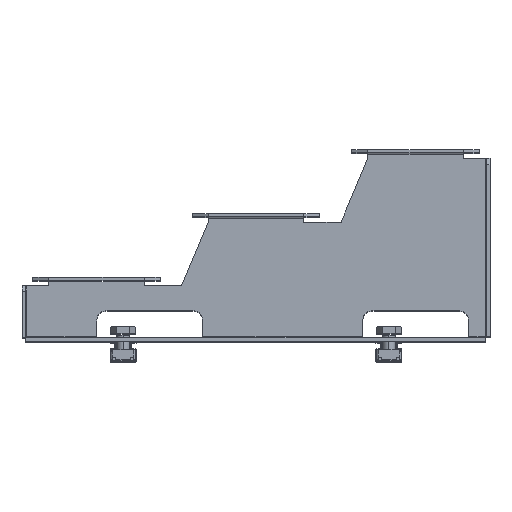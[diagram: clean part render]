
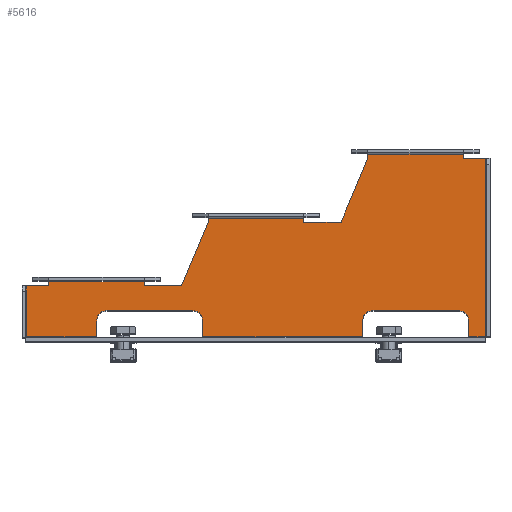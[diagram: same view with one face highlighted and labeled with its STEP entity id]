
A CAD part, top view. The second image highlights one B-rep face of the part: STEP entity #5616.
In plain terms, the highlighted planar face has unit normal (0, 0, 1).
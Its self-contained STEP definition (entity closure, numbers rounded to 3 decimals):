
#3716=CARTESIAN_POINT(' ',(-260.,2.1,1.5));
#3717=VERTEX_POINT(' ',#3716);
#3881=CARTESIAN_POINT(' ',(-260.,2.1,1.5));
#3886=DIRECTION(' ',(-1.,0.,0.));
#3891=VECTOR(' ',#3886,1.);
#3896=LINE('',#3881,#3891);
#3901=CARTESIAN_POINT(' ',(-292.9,2.1,1.5));
#3902=VERTEX_POINT(' ',#3901);
#3906=EDGE_CURVE(' ',#3717,#3902,#3896,.T.);
#4446=CARTESIAN_POINT(' ',(-260.,9.5,1.5));
#4447=VERTEX_POINT(' ',#4446);
#4461=CARTESIAN_POINT(' ',(-260.,9.5,1.5));
#4466=DIRECTION(' ',(0.,-1.,0.));
#4471=VECTOR(' ',#4466,1.);
#4476=LINE('',#4461,#4471);
#4481=EDGE_CURVE(' ',#4447,#3717,#4476,.T.);
#4506=DIRECTION(' ',(-0.,-0.,1.));
#4511=CARTESIAN_POINT(' ',(-77.1,2.1,1.5));
#4516=DIRECTION(' ',(0.,1.,0.));
#4521=AXIS2_PLACEMENT_3D(' ',#4511,#4506,#4516);
#4526=PLANE('NONE',#4521);
#4531=ORIENTED_EDGE(' ',*,*,#4481,.F.);
#4536=CARTESIAN_POINT(' ',(-255.,9.5,1.5));
#4541=DIRECTION(' ',(0.,-0.,-1.));
#4546=DIRECTION(' ',(-1.,0.,0.));
#4551=AXIS2_PLACEMENT_3D(' ',#4536,#4541,#4546);
#4556=CIRCLE('',#4551,5.);
#4561=CARTESIAN_POINT(' ',(-255.,14.5,1.5));
#4562=VERTEX_POINT(' ',#4561);
#4566=EDGE_CURVE(' ',#4447,#4562,#4556,.T.);
#4571=ORIENTED_EDGE(' ',*,*,#4566,.T.);
#4576=CARTESIAN_POINT(' ',(-215.,14.5,1.5));
#4581=DIRECTION(' ',(-1.,0.,0.));
#4586=VECTOR(' ',#4581,1.);
#4591=LINE('',#4576,#4586);
#4596=CARTESIAN_POINT(' ',(-215.,14.5,1.5));
#4597=VERTEX_POINT(' ',#4596);
#4601=EDGE_CURVE(' ',#4597,#4562,#4591,.T.);
#4606=ORIENTED_EDGE(' ',*,*,#4601,.F.);
#4611=CARTESIAN_POINT(' ',(-215.,9.5,1.5));
#4616=DIRECTION(' ',(-0.,-0.,-1.));
#4621=DIRECTION(' ',(0.,1.,0.));
#4626=AXIS2_PLACEMENT_3D(' ',#4611,#4616,#4621);
#4631=CIRCLE('',#4626,5.);
#4636=CARTESIAN_POINT(' ',(-210.,9.5,1.5));
#4637=VERTEX_POINT(' ',#4636);
#4641=EDGE_CURVE(' ',#4597,#4637,#4631,.T.);
#4646=ORIENTED_EDGE(' ',*,*,#4641,.T.);
#4651=CARTESIAN_POINT(' ',(-210.,2.1,1.5));
#4656=DIRECTION(' ',(0.,1.,0.));
#4661=VECTOR(' ',#4656,1.);
#4666=LINE('',#4651,#4661);
#4671=CARTESIAN_POINT(' ',(-210.,2.1,1.5));
#4672=VERTEX_POINT(' ',#4671);
#4676=EDGE_CURVE(' ',#4672,#4637,#4666,.T.);
#4681=ORIENTED_EDGE(' ',*,*,#4676,.F.);
#4686=CARTESIAN_POINT(' ',(-135.,2.1,1.5));
#4691=DIRECTION(' ',(-1.,0.,0.));
#4696=VECTOR(' ',#4691,1.);
#4701=LINE('',#4686,#4696);
#4706=CARTESIAN_POINT(' ',(-135.,2.1,1.5));
#4707=VERTEX_POINT(' ',#4706);
#4711=EDGE_CURVE(' ',#4707,#4672,#4701,.T.);
#4716=ORIENTED_EDGE(' ',*,*,#4711,.F.);
#4721=CARTESIAN_POINT(' ',(-135.,9.5,1.5));
#4726=DIRECTION(' ',(0.,-1.,0.));
#4731=VECTOR(' ',#4726,1.);
#4736=LINE('',#4721,#4731);
#4741=CARTESIAN_POINT(' ',(-135.,9.5,1.5));
#4742=VERTEX_POINT(' ',#4741);
#4746=EDGE_CURVE(' ',#4742,#4707,#4736,.T.);
#4751=ORIENTED_EDGE(' ',*,*,#4746,.F.);
#4756=CARTESIAN_POINT(' ',(-130.,9.5,1.5));
#4761=DIRECTION(' ',(0.,0.,-1.));
#4766=DIRECTION(' ',(-1.,0.,0.));
#4771=AXIS2_PLACEMENT_3D(' ',#4756,#4761,#4766);
#4776=CIRCLE('',#4771,5.);
#4781=CARTESIAN_POINT(' ',(-130.,14.5,1.5));
#4782=VERTEX_POINT(' ',#4781);
#4786=EDGE_CURVE(' ',#4742,#4782,#4776,.T.);
#4791=ORIENTED_EDGE(' ',*,*,#4786,.T.);
#4796=CARTESIAN_POINT(' ',(-90.,14.5,1.5));
#4801=DIRECTION(' ',(-1.,0.,0.));
#4806=VECTOR(' ',#4801,1.);
#4811=LINE('',#4796,#4806);
#4816=CARTESIAN_POINT(' ',(-90.,14.5,1.5));
#4817=VERTEX_POINT(' ',#4816);
#4821=EDGE_CURVE(' ',#4817,#4782,#4811,.T.);
#4826=ORIENTED_EDGE(' ',*,*,#4821,.F.);
#4831=CARTESIAN_POINT(' ',(-90.,9.5,1.5));
#4836=DIRECTION(' ',(0.,0.,-1.));
#4841=DIRECTION(' ',(0.,1.,0.));
#4846=AXIS2_PLACEMENT_3D(' ',#4831,#4836,#4841);
#4851=CIRCLE('',#4846,5.);
#4856=CARTESIAN_POINT(' ',(-85.,9.5,1.5));
#4857=VERTEX_POINT(' ',#4856);
#4861=EDGE_CURVE(' ',#4817,#4857,#4851,.T.);
#4866=ORIENTED_EDGE(' ',*,*,#4861,.T.);
#4871=CARTESIAN_POINT(' ',(-85.,2.1,1.5));
#4876=DIRECTION(' ',(0.,1.,0.));
#4881=VECTOR(' ',#4876,1.);
#4886=LINE('',#4871,#4881);
#4891=CARTESIAN_POINT(' ',(-85.,2.1,1.5));
#4892=VERTEX_POINT(' ',#4891);
#4896=EDGE_CURVE(' ',#4892,#4857,#4886,.T.);
#4901=ORIENTED_EDGE(' ',*,*,#4896,.F.);
#4906=CARTESIAN_POINT(' ',(-77.25,2.1,1.5));
#4911=DIRECTION(' ',(-1.,0.,0.));
#4916=VECTOR(' ',#4911,1.);
#4921=LINE('',#4906,#4916);
#4926=CARTESIAN_POINT(' ',(-77.25,2.1,1.5));
#4927=VERTEX_POINT(' ',#4926);
#4931=EDGE_CURVE(' ',#4927,#4892,#4921,.T.);
#4936=ORIENTED_EDGE(' ',*,*,#4931,.F.);
#4941=CARTESIAN_POINT(' ',(-77.25,2.25,1.5));
#4946=DIRECTION(' ',(0.,-1.,0.));
#4951=VECTOR(' ',#4946,1.);
#4956=LINE('',#4941,#4951);
#4961=CARTESIAN_POINT(' ',(-77.25,2.25,1.5));
#4962=VERTEX_POINT(' ',#4961);
#4966=EDGE_CURVE(' ',#4962,#4927,#4956,.T.);
#4971=ORIENTED_EDGE(' ',*,*,#4966,.F.);
#4976=CARTESIAN_POINT(' ',(-77.25,2.25,1.5));
#4981=DIRECTION(' ',(1.,0.,0.));
#4986=VECTOR(' ',#4981,1.);
#4991=LINE('',#4976,#4986);
#4996=CARTESIAN_POINT(' ',(-77.1,2.25,1.5));
#4997=VERTEX_POINT(' ',#4996);
#5001=EDGE_CURVE(' ',#4962,#4997,#4991,.T.);
#5006=ORIENTED_EDGE(' ',*,*,#5001,.T.);
#5011=CARTESIAN_POINT(' ',(-77.1,86.,1.5));
#5016=DIRECTION(' ',(0.,-1.,0.));
#5021=VECTOR(' ',#5016,1.);
#5026=LINE('',#5011,#5021);
#5031=CARTESIAN_POINT(' ',(-77.1,86.,1.5));
#5032=VERTEX_POINT(' ',#5031);
#5036=EDGE_CURVE(' ',#5032,#4997,#5026,.T.);
#5041=ORIENTED_EDGE(' ',*,*,#5036,.F.);
#5046=CARTESIAN_POINT(' ',(-77.1,86.,1.5));
#5051=DIRECTION(' ',(-1.,0.,0.));
#5056=VECTOR(' ',#5051,1.);
#5061=LINE('',#5046,#5056);
#5066=CARTESIAN_POINT(' ',(-87.5,86.,1.5));
#5067=VERTEX_POINT(' ',#5066);
#5071=EDGE_CURVE(' ',#5032,#5067,#5061,.T.);
#5076=ORIENTED_EDGE(' ',*,*,#5071,.T.);
#5081=CARTESIAN_POINT(' ',(-87.5,86.,1.5));
#5086=DIRECTION(' ',(0.,1.,0.));
#5091=VECTOR(' ',#5086,1.);
#5096=LINE('',#5081,#5091);
#5101=CARTESIAN_POINT(' ',(-87.5,87.9,1.5));
#5102=VERTEX_POINT(' ',#5101);
#5106=EDGE_CURVE(' ',#5067,#5102,#5096,.T.);
#5111=ORIENTED_EDGE(' ',*,*,#5106,.T.);
#5116=CARTESIAN_POINT(' ',(-132.5,87.9,1.5));
#5121=DIRECTION(' ',(1.,0.,0.));
#5126=VECTOR(' ',#5121,1.);
#5131=LINE('',#5116,#5126);
#5136=CARTESIAN_POINT(' ',(-132.5,87.9,1.5));
#5137=VERTEX_POINT(' ',#5136);
#5141=EDGE_CURVE(' ',#5137,#5102,#5131,.T.);
#5146=ORIENTED_EDGE(' ',*,*,#5141,.F.);
#5151=CARTESIAN_POINT(' ',(-132.5,87.9,1.5));
#5156=DIRECTION(' ',(0.,-1.,0.));
#5161=VECTOR(' ',#5156,1.);
#5166=LINE('',#5151,#5161);
#5171=CARTESIAN_POINT(' ',(-132.5,86.,1.5));
#5172=VERTEX_POINT(' ',#5171);
#5176=EDGE_CURVE(' ',#5137,#5172,#5166,.T.);
#5181=ORIENTED_EDGE(' ',*,*,#5176,.T.);
#5186=CARTESIAN_POINT(' ',(-132.5,86.,1.5));
#5191=DIRECTION(' ',(-0.385,-0.923,0.));
#5196=VECTOR(' ',#5191,1.);
#5201=LINE('',#5186,#5196);
#5206=CARTESIAN_POINT(' ',(-145.,56.,1.5));
#5207=VERTEX_POINT(' ',#5206);
#5211=EDGE_CURVE(' ',#5172,#5207,#5201,.T.);
#5216=ORIENTED_EDGE(' ',*,*,#5211,.T.);
#5221=CARTESIAN_POINT(' ',(-145.,56.,1.5));
#5226=DIRECTION(' ',(-1.,0.,0.));
#5231=VECTOR(' ',#5226,1.);
#5236=LINE('',#5221,#5231);
#5241=CARTESIAN_POINT(' ',(-162.5,56.,1.5));
#5242=VERTEX_POINT(' ',#5241);
#5246=EDGE_CURVE(' ',#5207,#5242,#5236,.T.);
#5251=ORIENTED_EDGE(' ',*,*,#5246,.T.);
#5256=CARTESIAN_POINT(' ',(-162.5,56.,1.5));
#5261=DIRECTION(' ',(0.,1.,0.));
#5266=VECTOR(' ',#5261,1.);
#5271=LINE('',#5256,#5266);
#5276=CARTESIAN_POINT(' ',(-162.5,57.9,1.5));
#5277=VERTEX_POINT(' ',#5276);
#5281=EDGE_CURVE(' ',#5242,#5277,#5271,.T.);
#5286=ORIENTED_EDGE(' ',*,*,#5281,.T.);
#5291=CARTESIAN_POINT(' ',(-207.5,57.9,1.5));
#5296=DIRECTION(' ',(1.,0.,0.));
#5301=VECTOR(' ',#5296,1.);
#5306=LINE('',#5291,#5301);
#5311=CARTESIAN_POINT(' ',(-207.5,57.9,1.5));
#5312=VERTEX_POINT(' ',#5311);
#5316=EDGE_CURVE(' ',#5312,#5277,#5306,.T.);
#5321=ORIENTED_EDGE(' ',*,*,#5316,.F.);
#5326=CARTESIAN_POINT(' ',(-207.5,57.9,1.5));
#5331=DIRECTION(' ',(0.,-1.,0.));
#5336=VECTOR(' ',#5331,1.);
#5341=LINE('',#5326,#5336);
#5346=CARTESIAN_POINT(' ',(-207.5,56.,1.5));
#5347=VERTEX_POINT(' ',#5346);
#5351=EDGE_CURVE(' ',#5312,#5347,#5341,.T.);
#5356=ORIENTED_EDGE(' ',*,*,#5351,.T.);
#5361=CARTESIAN_POINT(' ',(-207.5,56.,1.5));
#5366=DIRECTION(' ',(-0.385,-0.923,0.));
#5371=VECTOR(' ',#5366,1.);
#5376=LINE('',#5361,#5371);
#5381=CARTESIAN_POINT(' ',(-220.,26.,1.5));
#5382=VERTEX_POINT(' ',#5381);
#5386=EDGE_CURVE(' ',#5347,#5382,#5376,.T.);
#5391=ORIENTED_EDGE(' ',*,*,#5386,.T.);
#5396=CARTESIAN_POINT(' ',(-220.,26.,1.5));
#5401=DIRECTION(' ',(-1.,0.,0.));
#5406=VECTOR(' ',#5401,1.);
#5411=LINE('',#5396,#5406);
#5416=CARTESIAN_POINT(' ',(-237.5,26.,1.5));
#5417=VERTEX_POINT(' ',#5416);
#5421=EDGE_CURVE(' ',#5382,#5417,#5411,.T.);
#5426=ORIENTED_EDGE(' ',*,*,#5421,.T.);
#5431=CARTESIAN_POINT(' ',(-237.5,26.,1.5));
#5436=DIRECTION(' ',(0.,1.,0.));
#5441=VECTOR(' ',#5436,1.);
#5446=LINE('',#5431,#5441);
#5451=CARTESIAN_POINT(' ',(-237.5,27.9,1.5));
#5452=VERTEX_POINT(' ',#5451);
#5456=EDGE_CURVE(' ',#5417,#5452,#5446,.T.);
#5461=ORIENTED_EDGE(' ',*,*,#5456,.T.);
#5466=CARTESIAN_POINT(' ',(-282.5,27.9,1.5));
#5471=DIRECTION(' ',(1.,0.,0.));
#5476=VECTOR(' ',#5471,1.);
#5481=LINE('',#5466,#5476);
#5486=CARTESIAN_POINT(' ',(-282.5,27.9,1.5));
#5487=VERTEX_POINT(' ',#5486);
#5491=EDGE_CURVE(' ',#5487,#5452,#5481,.T.);
#5496=ORIENTED_EDGE(' ',*,*,#5491,.F.);
#5501=CARTESIAN_POINT(' ',(-282.5,27.9,1.5));
#5506=DIRECTION(' ',(0.,-1.,0.));
#5511=VECTOR(' ',#5506,1.);
#5516=LINE('',#5501,#5511);
#5521=CARTESIAN_POINT(' ',(-282.5,26.,1.5));
#5522=VERTEX_POINT(' ',#5521);
#5526=EDGE_CURVE(' ',#5487,#5522,#5516,.T.);
#5531=ORIENTED_EDGE(' ',*,*,#5526,.T.);
#5536=CARTESIAN_POINT(' ',(-282.5,26.,1.5));
#5541=DIRECTION(' ',(-1.,0.,0.));
#5546=VECTOR(' ',#5541,1.);
#5551=LINE('',#5536,#5546);
#5556=CARTESIAN_POINT(' ',(-292.9,26.,1.5));
#5557=VERTEX_POINT(' ',#5556);
#5561=EDGE_CURVE(' ',#5522,#5557,#5551,.T.);
#5566=ORIENTED_EDGE(' ',*,*,#5561,.T.);
#5571=CARTESIAN_POINT(' ',(-292.9,2.1,1.5));
#5576=DIRECTION(' ',(0.,1.,0.));
#5581=VECTOR(' ',#5576,1.);
#5586=LINE('',#5571,#5581);
#5591=EDGE_CURVE(' ',#3902,#5557,#5586,.T.);
#5596=ORIENTED_EDGE(' ',*,*,#5591,.F.);
#5601=ORIENTED_EDGE(' ',*,*,#3906,.F.);
#5606=EDGE_LOOP(' ',(#4531,#4571,#4606,#4646,#4681,#4716,#4751,#4791,#4826,#4866,#4901,#4936,#4971,#5006,#5041,#5076,#5111,#5146,#5181,#5216,#5251,#5286,#5321,#5356,#5391,#5426,#5461,#5496,#5531,#5566,#5596,#5601));
#5611=FACE_OUTER_BOUND(' ',#5606,.T.);
#5616=ADVANCED_FACE('NONE',(#5611),#4526,.T.);
